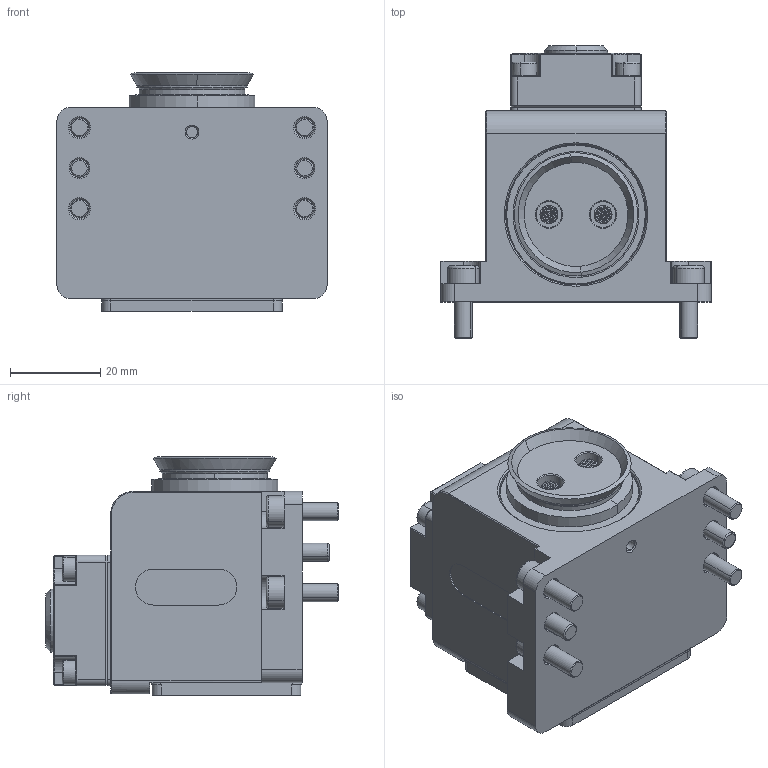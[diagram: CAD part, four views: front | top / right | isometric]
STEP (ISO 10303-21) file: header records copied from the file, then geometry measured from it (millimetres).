
FILE_DESCRIPTION(/* description */ (''),/* implementation_level */ '2;1');
FILE_NAME(/* name */ 'QCHFM-E14-C1R',/* time_stamp */ '2022-09-05T16:24:04+08:00',/* author */ (''),/* organization */ (''),/* preprocessor_version */ 'ST-DEVELOPER v9',/* originating_system */ 'UGS - NX 4.0',/* authorisation */ '');
FILE_SCHEMA (('AUTOMOTIVE_DESIGN { 1 0 10303 214 1 1 1 1 }'));
Length unit declared in the file: millimetre
Products named in the file (1): Admi1530pszt
Bounding box: 60 x 64.9 x 53 mm (x, y, z)
Volume: 95910.1 mm3; surface area: 20957.9 mm2
Topology: 1 solids, 29 shells, 989 faces, 2234 edges, 1311 vertices
Faces by surface type: plane 559, cylinder 221, cone 177, torus 32
Entity records: 27050 total; most frequent: DIRECTION 4890, CARTESIAN_POINT 4858, ORIENTED_EDGE 4388, EDGE_CURVE 2194, AXIS2_PLACEMENT_3D 1803, VERTEX_POINT 1311, LINE 1284, VECTOR 1284
